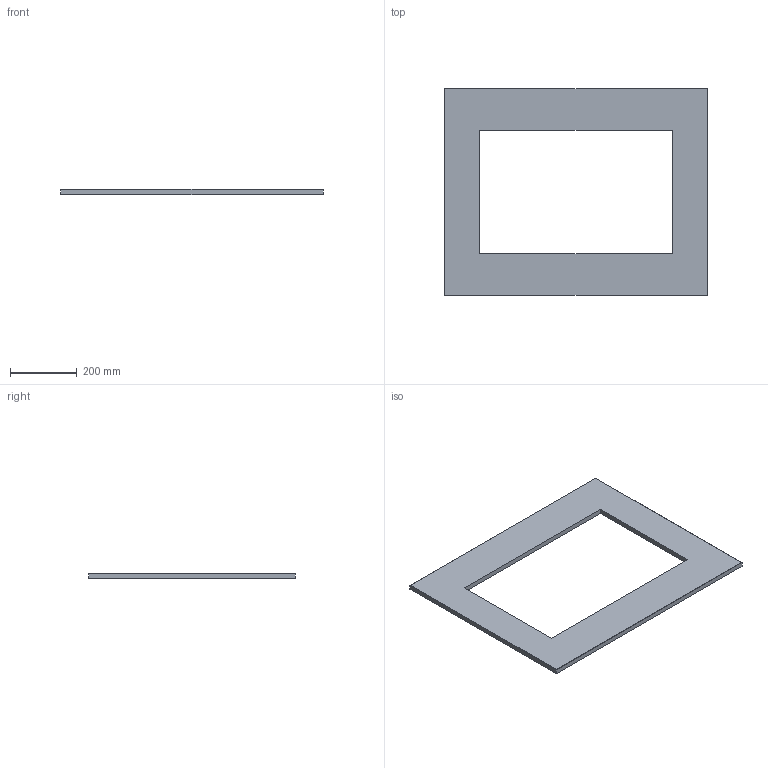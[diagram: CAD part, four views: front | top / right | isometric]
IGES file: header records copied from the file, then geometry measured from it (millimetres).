
Global section: file name: 80011; native system: Autodesk Inventor 2014; preprocessor: unknown; author: ARCH.CARLO COLOMBO; date: 20140526.111348; units: millimetre
Bounding box: 788 x 620 x 15 mm (x, y, z)
Volume: 4119093.3 mm3; surface area: 618428.8 mm2
Topology: 1 solids, 1 shells, 14 faces, 32 edges, 20 vertices
Faces by surface type: bspline 14
